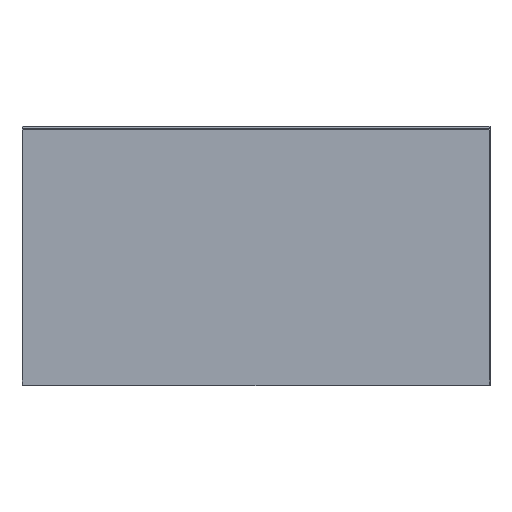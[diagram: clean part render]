
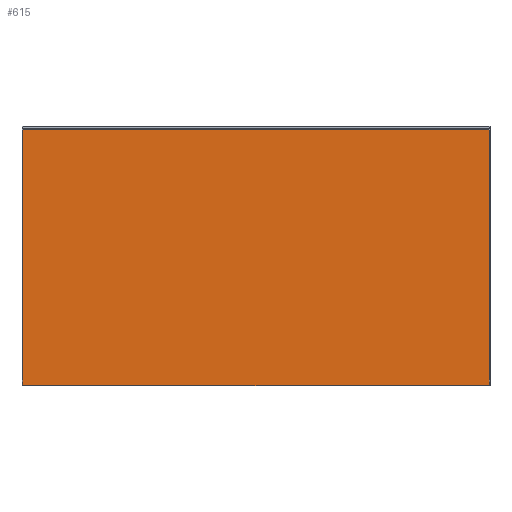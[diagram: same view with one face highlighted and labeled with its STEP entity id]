
A CAD part, front view. The second image highlights one B-rep face of the part: STEP entity #615.
In plain terms, the highlighted planar face has unit normal (0, -1, 0).
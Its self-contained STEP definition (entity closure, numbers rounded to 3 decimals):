
#75 = CARTESIAN_POINT ( 'NONE',  ( -897., -20., 497. ) ) ;
#102 = DIRECTION ( 'NONE',  ( 0., -1., 0. ) ) ;
#139 = DIRECTION ( 'NONE',  ( 0., 0., -1. ) ) ;
#217 = VERTEX_POINT ( 'NONE', #456 ) ;
#293 = AXIS2_PLACEMENT_3D ( 'NONE', #1097, #102, #139 ) ;
#380 = VECTOR ( 'NONE', #1169, 1000. ) ;
#384 = VECTOR ( 'NONE', #1079, 1000. ) ;
#388 = LINE ( 'NONE', #935, #468 ) ;
#399 = LINE ( 'NONE', #1531, #961 ) ;
#454 = VERTEX_POINT ( 'NONE', #1648 ) ;
#456 = CARTESIAN_POINT ( 'NONE',  ( -897., -20., -497. ) ) ;
#467 = ORIENTED_EDGE ( 'NONE', *, *, #1796, .F. ) ;
#468 = VECTOR ( 'NONE', #1682, 1000. ) ;
#521 = LINE ( 'NONE', #75, #384 ) ;
#595 = CARTESIAN_POINT ( 'NONE',  ( 897., -20., -497. ) ) ;
#609 = CARTESIAN_POINT ( 'NONE',  ( -897., -20., 497. ) ) ;
#615 = ADVANCED_FACE ( 'NONE', ( #1379 ), #1225, .T. ) ;
#634 = ORIENTED_EDGE ( 'NONE', *, *, #646, .F. ) ;
#646 = EDGE_CURVE ( 'NONE', #1424, #217, #388, .T. ) ;
#704 = ORIENTED_EDGE ( 'NONE', *, *, #976, .F. ) ;
#899 = LINE ( 'NONE', #609, #380 ) ;
#935 = CARTESIAN_POINT ( 'NONE',  ( -897., -20., -497. ) ) ;
#961 = VECTOR ( 'NONE', #1385, 1000. ) ;
#976 = EDGE_CURVE ( 'NONE', #217, #1241, #899, .T. ) ;
#1077 = CARTESIAN_POINT ( 'NONE',  ( -897., -20., 497. ) ) ;
#1079 = DIRECTION ( 'NONE',  ( 1., 0., 0. ) ) ;
#1097 = CARTESIAN_POINT ( 'NONE',  ( 0., -20., 0. ) ) ;
#1108 = EDGE_LOOP ( 'NONE', ( #1190, #467, #704, #634 ) ) ;
#1169 = DIRECTION ( 'NONE',  ( 0., 0., 1. ) ) ;
#1190 = ORIENTED_EDGE ( 'NONE', *, *, #1269, .F. ) ;
#1225 = PLANE ( 'NONE',  #293 ) ;
#1241 = VERTEX_POINT ( 'NONE', #1077 ) ;
#1269 = EDGE_CURVE ( 'NONE', #454, #1424, #399, .T. ) ;
#1379 = FACE_OUTER_BOUND ( 'NONE', #1108, .T. ) ;
#1385 = DIRECTION ( 'NONE',  ( 0., 0., -1. ) ) ;
#1424 = VERTEX_POINT ( 'NONE', #595 ) ;
#1531 = CARTESIAN_POINT ( 'NONE',  ( 897., -20., 497. ) ) ;
#1648 = CARTESIAN_POINT ( 'NONE',  ( 897., -20., 497. ) ) ;
#1682 = DIRECTION ( 'NONE',  ( -1., 0., 0. ) ) ;
#1796 = EDGE_CURVE ( 'NONE', #1241, #454, #521, .T. ) ;
